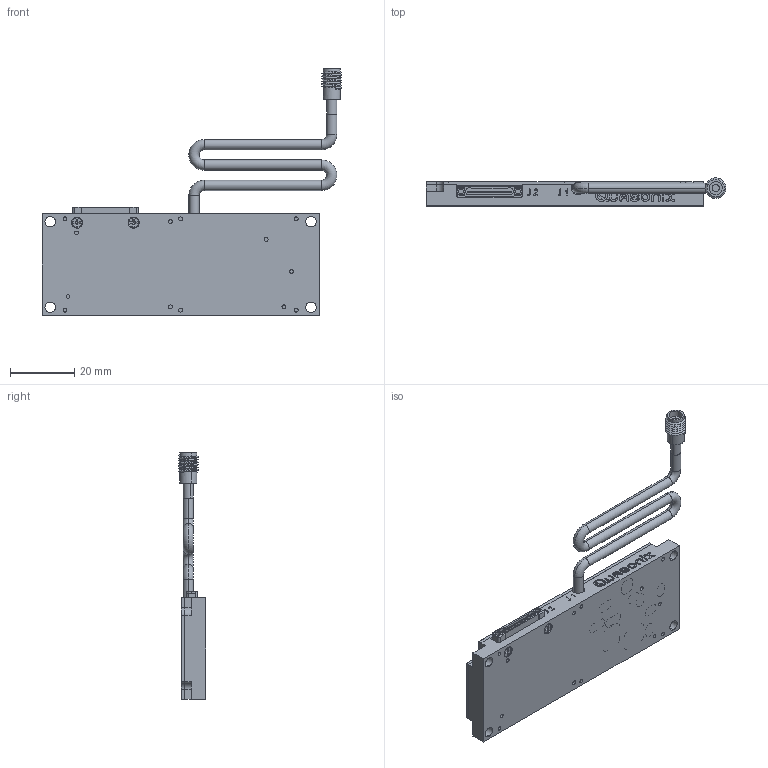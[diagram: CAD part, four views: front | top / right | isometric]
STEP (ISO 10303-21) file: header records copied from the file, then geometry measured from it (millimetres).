
FILE_DESCRIPTION (( 'STEP AP203' ), '1' );
FILE_NAME ('01AD_10-29-13.STEP', '2013-10-29T19:02:29', ( 'Quasonix' ), ( '' ), 'SwSTEP 2.0', 'SolidWorks 2012', '' );
FILE_SCHEMA (( 'CONFIG_CONTROL_DESIGN' ));
Products named in the file (1): 01AD_10-29-13
Bounding box: 93.47 x 8.68 x 76.94 mm (x, y, z)
Volume: 8730 mm3; surface area: 19539.2 mm2
Topology: 14 solids, 14 shells, 1680 faces, 4426 edges, 2870 vertices
Faces by surface type: plane 754, cylinder 673, torus 132, bspline 89, cone 32
Entity records: 54247 total; most frequent: CARTESIAN_POINT 11801, DIRECTION 8982, ORIENTED_EDGE 8852, EDGE_CURVE 4426, AXIS2_PLACEMENT_3D 3194, VERTEX_POINT 2870, LINE 2594, VECTOR 2594
